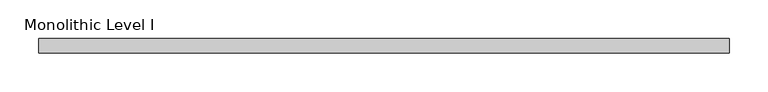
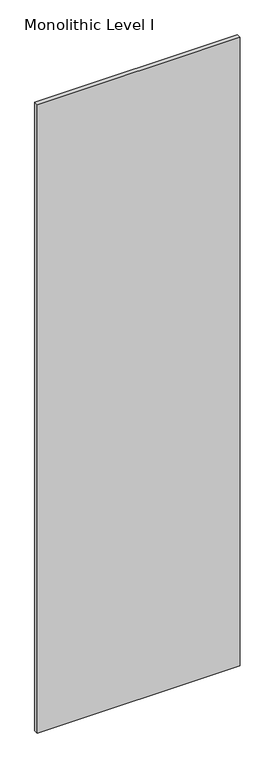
"""IFC4 building model written with IfcOpenShell, lengths in millimetres: proxy geometry, Panel-Fascia-Teknion-Altos-Standard : Monolithic Level I."""

from ifc_helpers import new_model, si_unit, frame, origin, place, context, project, spatial, polyline, outline, extrude, source, transform, mapped, element, save


def monolithic_level_i_c985bec4(model_context):
    return source(origin(), model_context, "Body", "SweptSolid", [
        extrude(outline(polyline([(447.0300781, 9.525), (447.0300781, -9.525), (-447.0300781, -9.525), (-447.0300781, 9.525), (447.0300781, 9.525)])), frame((0.0, 0.0, 3.175), z_axis=(0.0, 0.0, 1.0), x_axis=(1.0, 0.0, 0.0)), (0.0, 0.0, 1.0), 2928.493),
    ])


if __name__ == "__main__":
    model = new_model("IFC4")
    model_context = context("Model", 3, world=origin())
    ifc_project = project(units=[si_unit("LENGTHUNIT", "METRE", prefix="MILLI")], contexts=[model_context])
    site = spatial("IfcSite", under=ifc_project)
    building = spatial("IfcBuilding", under=site)
    placement = place(None, origin())
    monolithic_level_i_shape = monolithic_level_i_c985bec4(model_context)
    element("IfcBuildingElementProxy", 1, Name="Panel-Fascia-Teknion-Altos-Standard : Monolithic Level I", ObjectType="Panel-Fascia-Teknion-Altos-Standard : Monolithic Level I", at=placement, inside=building, context=model_context, shape_type="MappedRepresentation", body=[
        mapped(monolithic_level_i_shape, transform((0.0, 0.0, 0.0), x_axis=(1.0, 0.0, 0.0), y_axis=(0.0, 1.0, 0.0), z_axis=(0.0, 0.0, 1.0))),
    ])
    save(model, "model.ifc")
